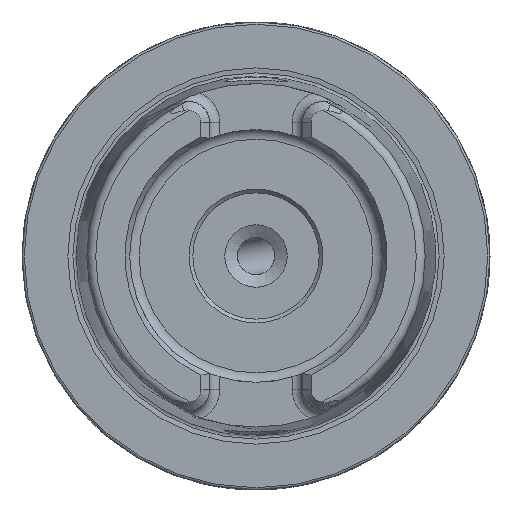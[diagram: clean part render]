
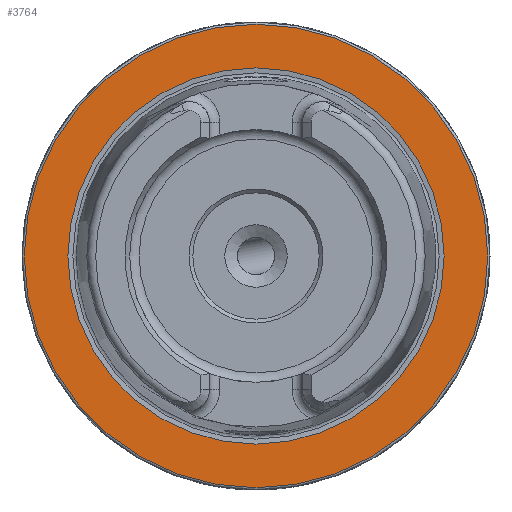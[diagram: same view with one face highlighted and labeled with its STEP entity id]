
A CAD part, left-side view. The second image highlights one B-rep face of the part: STEP entity #3764.
In plain terms, the highlighted planar face has unit normal (-1, 0, 0).
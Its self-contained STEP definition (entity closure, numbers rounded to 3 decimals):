
#408 = DIRECTION ( 'NONE',  ( 0., 0., 1. ) ) ;
#546 = DIRECTION ( 'NONE',  ( 0., 0., -1. ) ) ;
#561 = DIRECTION ( 'NONE',  ( -1., 0., 0. ) ) ;
#604 = CARTESIAN_POINT ( 'NONE',  ( 0., 0., 0. ) ) ;
#704 = CIRCLE ( 'NONE', #3685, 25.324 ) ;
#820 = AXIS2_PLACEMENT_3D ( 'NONE', #4422, #1566, #546 ) ;
#1533 = PLANE ( 'NONE',  #820 ) ;
#1566 = DIRECTION ( 'NONE',  ( 1., 0., 0. ) ) ;
#2196 = CARTESIAN_POINT ( 'NONE',  ( 0., 0., 0. ) ) ;
#2819 = EDGE_LOOP ( 'NONE', ( #5132 ) ) ;
#2823 = CIRCLE ( 'NONE', #7391, 31.2 ) ;
#3685 = AXIS2_PLACEMENT_3D ( 'NONE', #2196, #8946, #408 ) ;
#3764 = ADVANCED_FACE ( 'NONE', ( #10486, #7932 ), #1533, .F. ) ;
#4009 = EDGE_LOOP ( 'NONE', ( #4379 ) ) ;
#4379 = ORIENTED_EDGE ( 'NONE', *, *, #5742, .F. ) ;
#4422 = CARTESIAN_POINT ( 'NONE',  ( 0., 31.2, 0. ) ) ;
#4461 = VERTEX_POINT ( 'NONE', #6553 ) ;
#5132 = ORIENTED_EDGE ( 'NONE', *, *, #11351, .T. ) ;
#5527 = VERTEX_POINT ( 'NONE', #7578 ) ;
#5742 = EDGE_CURVE ( 'NONE', #4461, #4461, #704, .T. ) ;
#6553 = CARTESIAN_POINT ( 'NONE',  ( 0., 0., 25.324 ) ) ;
#7337 = DIRECTION ( 'NONE',  ( 0., 0., 1. ) ) ;
#7391 = AXIS2_PLACEMENT_3D ( 'NONE', #604, #561, #7337 ) ;
#7578 = CARTESIAN_POINT ( 'NONE',  ( 0., 0., 31.2 ) ) ;
#7932 = FACE_OUTER_BOUND ( 'NONE', #2819, .T. ) ;
#8946 = DIRECTION ( 'NONE',  ( -1., 0., 0. ) ) ;
#10486 = FACE_BOUND ( 'NONE', #4009, .T. ) ;
#11351 = EDGE_CURVE ( 'NONE', #5527, #5527, #2823, .T. ) ;
